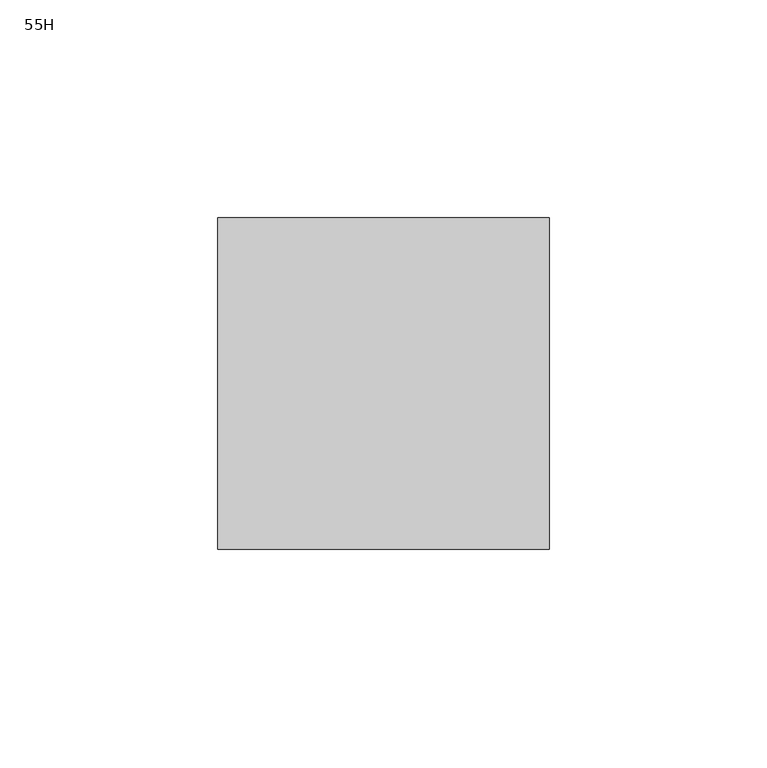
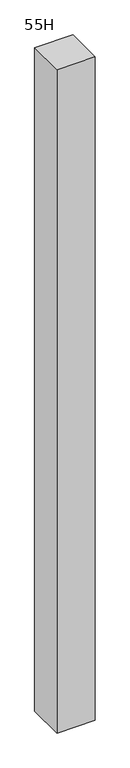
"""IFC4 building model written with IfcOpenShell, lengths in millimetres: furniture geometry, Steelcase - Montage - Junction - L Square - Same-Height : 55H."""

from ifc_helpers import new_model, si_unit, frame, origin, place, context, project, spatial, polyline, outline, extrude, source, transform, mapped, element, save


def furniture_55h_62b237f5(model_context):
    return source(origin(), model_context, "Body", "SweptSolid", [
        extrude(outline(polyline([(533.4, -38.1000015), (457.2, -38.1000015), (457.2, 38.1000015), (533.4, 38.1000015), (533.4, -38.1000015)])), frame((0.0, 0.0, 4.064), z_axis=(0.0, 0.0, 1.0), x_axis=(1.0, 0.0, 0.0)), (0.0, 0.0, 1.0), 1394.5235),
    ])


if __name__ == "__main__":
    model = new_model("IFC4")
    model_context = context("Model", 3, world=origin())
    ifc_project = project(units=[si_unit("LENGTHUNIT", "METRE", prefix="MILLI")], contexts=[model_context])
    site = spatial("IfcSite", under=ifc_project)
    building = spatial("IfcBuilding", under=site)
    placement = place(None, origin())
    furniture_55h_shape = furniture_55h_62b237f5(model_context)
    element("IfcFurniture", 1, ObjectType="Steelcase - Montage - Junction - L Square - Same-Height : 55H", at=placement, inside=building, context=model_context, shape_type="MappedRepresentation", body=[
        mapped(furniture_55h_shape, transform((0.0, 0.0, 0.0), x_axis=(1.0, 0.0, 0.0), y_axis=(0.0, 1.0, 0.0), z_axis=(0.0, 0.0, 1.0))),
    ])
    save(model, "model.ifc")
